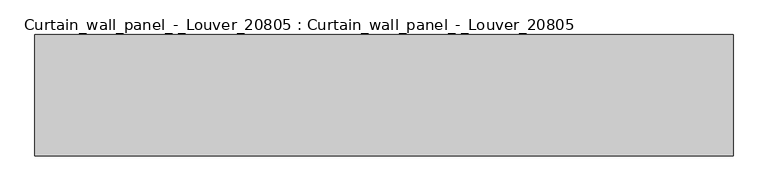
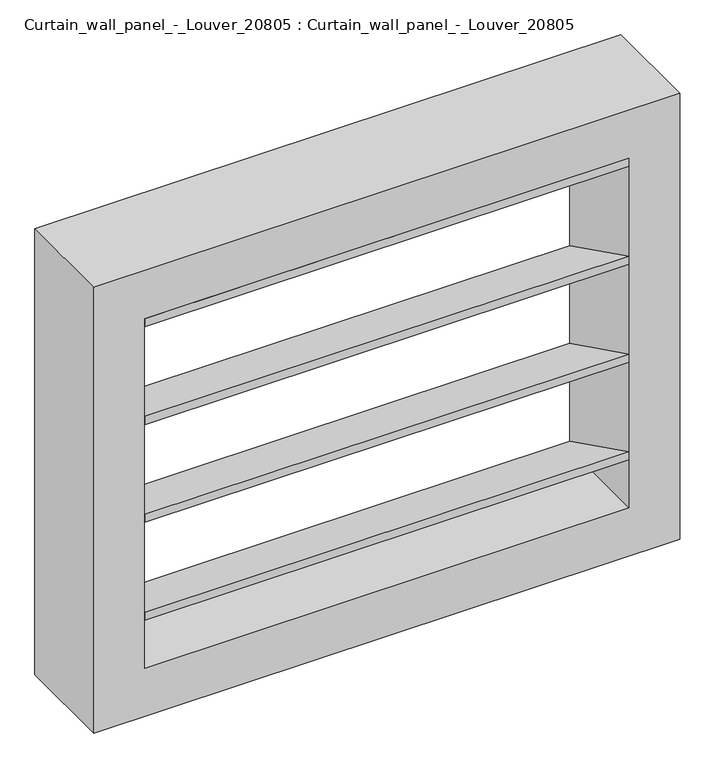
"""IFC4 building model written with IfcOpenShell, lengths in millimetres: plate geometry, Curtain_wall_panel_-_Louver_20805 : Curtain_wall_panel_-_Louver_20805."""

import ifcopenshell
import ifcopenshell.guid

model = None  # the IFC model being written
_history = None  # IfcOwnerHistory: only IFC2X3 demands one
_inside = {}  # id of a spatial element -> (the spatial element, [elements in it])
_under = {}  # id of a project, library or spatial element -> (it, [spatial elements below it])
_declared = {}  # id of a project -> (the project, [libraries it declares])
_typed = {}  # id of a type object -> (the type object, [elements of that type])
_made_of = {}  # id of a material, layer set ... -> (it, [elements and type objects made of it])


def new_model(schema):
    """Start an empty IFC model of exactly this schema.

    Asked for "IFC4X3", IfcOpenShell would pick the latest addendum, in which some entities
    have other attributes; the version numbers below select the first issue.
    IFC2X3 requires an IfcOwnerHistory on every rooted entity: one is made here for all.
    """
    global model, _history
    if schema == "IFC4X3":
        model = ifcopenshell.file(schema_version=(4, 3, 0, 0))
    else:
        model = ifcopenshell.file(schema=schema)
    _inside.clear()
    _under.clear()
    _declared.clear()
    _typed.clear()
    _made_of.clear()
    _history = None
    if model.schema == "IFC2X3":
        org = make("IfcOrganization", Name="unknown")
        user = make(
            "IfcPersonAndOrganization",
            ThePerson=make("IfcPerson", FamilyName="unknown"),
            TheOrganization=org,
        )
        app = make(
            "IfcApplication",
            ApplicationDeveloper=org,
            Version="unknown",
            ApplicationFullName="unknown",
            ApplicationIdentifier="unknown",
        )
        _history = make(
            "IfcOwnerHistory",
            OwningUser=user,
            OwningApplication=app,
            ChangeAction="ADDED",
            CreationDate=0,
        )
    return model


def make(cls, **values):
    """One entity of the class cls with the attributes given. An attribute that is None is left unset."""
    return model.create_entity(
        cls, **{name: value for name, value in values.items() if value is not None}
    )


def rooted(cls, **values):
    """An entity with a GlobalId (a new one), such as an element, a storey or a relation."""
    return make(cls, GlobalId=ifcopenshell.guid.new(), OwnerHistory=_history, **values)


def si_unit(unit_type, name, prefix=None):
    """IfcSIUnit, for example si_unit("LENGTHUNIT", "METRE", prefix="MILLI")."""
    return make("IfcSIUnit", UnitType=unit_type, Prefix=prefix, Name=name)


def assignment(units):
    """IfcUnitAssignment: the units of a project."""
    return None if units is None else make("IfcUnitAssignment", Units=units)


def point(xyz):
    """IfcCartesianPoint."""
    return None if xyz is None else make("IfcCartesianPoint", Coordinates=xyz)


def direction(xyz):
    """IfcDirection."""
    return None if xyz is None else make("IfcDirection", DirectionRatios=xyz)


def frame(location, z_axis=None, x_axis=None):
    """IfcAxis2Placement3D, a coordinate frame: its origin and axes. An axis left out is left unset."""
    return make(
        "IfcAxis2Placement3D",
        Location=point(location),
        Axis=direction(z_axis),
        RefDirection=direction(x_axis),
    )


def origin():
    """The frame at (0, 0, 0) with its axes left unset."""
    return frame((0.0, 0.0, 0.0))


def place(relative_to, where):
    """IfcLocalPlacement: puts the frame where relative to a parent placement (None: the world)."""
    return make(
        "IfcLocalPlacement", PlacementRelTo=relative_to, RelativePlacement=where
    )


def context(
    kind, dimensions, precision=None, world=None, true_north=None, identifier=None
):
    """IfcGeometricRepresentationContext, for example the 3D "Model" context."""
    return make(
        "IfcGeometricRepresentationContext",
        ContextIdentifier=identifier,
        ContextType=kind,
        CoordinateSpaceDimension=dimensions,
        Precision=precision,
        WorldCoordinateSystem=world,
        TrueNorth=true_north,
    )


def project(units=None, contexts=None):
    """IfcProject with its units and contexts."""
    return rooted(
        "IfcProject",
        Name="project",
        RepresentationContexts=contexts,
        UnitsInContext=assignment(units),
    )


def spatial(cls, under=None, at=None, **own):
    """A site, building, storey or space (cls), placed at a placement, below another one or the project."""
    s = rooted(cls, ObjectPlacement=at, **own)
    if under is not None:
        _under.setdefault(under.id(), (under, []))[1].append(s)
    return s


def polyline(points):
    """IfcPolyline through the points."""
    return make("IfcPolyline", Points=[point(p) for p in points])


def outline(outer, holes=None, kind="AREA"):
    """IfcArbitraryClosedProfileDef: a profile drawn as a closed curve; with holes, ...WithVoids."""
    if holes is None:
        return make("IfcArbitraryClosedProfileDef", ProfileType=kind, OuterCurve=outer)
    return make(
        "IfcArbitraryProfileDefWithVoids",
        ProfileType=kind,
        OuterCurve=outer,
        InnerCurves=holes,
    )


def extrude(swept, where, along, depth):
    """IfcExtrudedAreaSolid: the profile swept, set in the frame where, extruded along a direction by depth."""
    return make(
        "IfcExtrudedAreaSolid",
        SweptArea=swept,
        Position=where,
        ExtrudedDirection=direction(along),
        Depth=depth,
    )


def shape(context_of_items, identifier, shape_type, items):
    """IfcShapeRepresentation: the items that make up one representation, for example the "Body"."""
    return make(
        "IfcShapeRepresentation",
        ContextOfItems=context_of_items,
        RepresentationIdentifier=identifier,
        RepresentationType=shape_type,
        Items=items,
    )


def source(mapping_origin, context_of_items, identifier, shape_type, items):
    """IfcRepresentationMap: a shape defined once, which mapped items show again and again."""
    return make(
        "IfcRepresentationMap",
        MappingOrigin=mapping_origin,
        MappedRepresentation=shape(context_of_items, identifier, shape_type, items),
    )


def transform(
    local_origin,
    x_axis=None,
    y_axis=None,
    z_axis=None,
    scale=None,
    scale2=None,
    scale3=None,
    uniform=True,
):
    """IfcCartesianTransformationOperator3D, or its non-uniform kind. x_axis, y_axis, z_axis: its Axis1, 2, 3."""
    if uniform:
        return make(
            "IfcCartesianTransformationOperator3D",
            Axis1=direction(x_axis),
            Axis2=direction(y_axis),
            LocalOrigin=point(local_origin),
            Scale=scale,
            Axis3=direction(z_axis),
        )
    return make(
        "IfcCartesianTransformationOperator3DnonUniform",
        Axis1=direction(x_axis),
        Axis2=direction(y_axis),
        LocalOrigin=point(local_origin),
        Scale=scale,
        Axis3=direction(z_axis),
        Scale2=scale2,
        Scale3=scale3,
    )


def mapped(mapping_source, mapping_target):
    """IfcMappedItem: shows the shape of a source again, moved by a transform."""
    return make(
        "IfcMappedItem", MappingSource=mapping_source, MappingTarget=mapping_target
    )


def made_of(thing, what):
    """Note that an element or type object is made of a material, layer set ...; save() writes the relation."""
    if what is not None:
        _made_of.setdefault(what.id(), (what, []))[1].append(thing)
    return thing


def element(
    cls,
    number,
    at=None,
    inside=None,
    cuts=None,
    type_object=None,
    material=None,
    context=None,
    identifier="Body",
    shape_type=None,
    held_by="IfcProductDefinitionShape",
    body=None,
    shapes=None,
    **own,
):
    """One element of the class cls, such as IfcWall. Its Tag is "e" and its number.

    at: its placement. inside: the storey or other place that contains it. cuts: it is an
    opening in that element (IfcRelVoidsElement). A single representation is given by context,
    identifier, shape_type and body (its items); several are given by shapes. held_by: the class
    of the entity that holds the representations. save() writes the other relations.
    """
    e = rooted(cls, Tag="e%d" % number, ObjectPlacement=at, **own)
    if body is not None:
        shapes = [shape(context, identifier, shape_type, body)]
    if shapes is not None:
        e.Representation = make(held_by, Representations=shapes)
    if inside is not None:
        _inside.setdefault(inside.id(), (inside, []))[1].append(e)
    if cuts is not None:
        rooted(
            "IfcRelVoidsElement", RelatingBuildingElement=cuts, RelatedOpeningElement=e
        )
    if type_object is not None:
        _typed.setdefault(type_object.id(), (type_object, []))[1].append(e)
    return made_of(e, material)


def aggregate(whole, parts):
    """IfcRelAggregates: a whole, such as a stair, and the parts it consists of."""
    return rooted("IfcRelAggregates", RelatingObject=whole, RelatedObjects=parts)


def save(model, path):
    """Write the relations noted so far, then the file.

    IfcRelAggregates (storeys below a building ...), IfcRelContainedInSpatialStructure (elements
    in a storey), IfcRelDefinesByType, IfcRelAssociatesMaterial and IfcRelDeclares: one each for
    every whole, place, type object, material and project.
    """
    for whole, parts in _under.values():
        aggregate(whole, parts)
    for where, things in _inside.values():
        rooted(
            "IfcRelContainedInSpatialStructure",
            RelatedElements=things,
            RelatingStructure=where,
        )
    for kind, things in _typed.values():
        rooted("IfcRelDefinesByType", RelatedObjects=things, RelatingType=kind)
    for what, things in _made_of.values():
        rooted("IfcRelAssociatesMaterial", RelatedObjects=things, RelatingMaterial=what)
    for by, libraries in _declared.values():
        rooted("IfcRelDeclares", RelatingContext=by, RelatedDefinitions=libraries)
    model.write(path)


def curtain_wall_panel_louver_20805_curtain_wall_panel_louver_a50875e5(model_context):
    return source(origin(), model_context, "Body", "SweptSolid", [
        extrude(outline(polyline([(-200.0, 605.2950441), (-200.0, 622.044977), (0.0, 522.6599789), (0.0, 505.910046), (-200.0, 605.2950441)])), frame((-475.0000001, 0.0, 0.0), z_axis=(1.0, 0.0, 0.0), x_axis=(0.0, 1.0, 0.0)), (0.0, 0.0, 1.0), 950.0000001),
        extrude(outline(polyline([(-200.0, 402.3400211), (-200.0, 419.089954), (0.0, 319.7049559), (0.0, 302.955023), (-200.0, 402.3400211)])), frame((-475.0000001, 0.0, 0.0), z_axis=(1.0, 0.0, 0.0), x_axis=(0.0, 1.0, 0.0)), (0.0, 0.0, 1.0), 950.0000001),
        extrude(outline(polyline([(-200.0, 808.2500672), (-200.0, 825.0), (0.0, 725.6150019), (0.0, 708.8650691), (-200.0, 808.2500672)])), frame((-475.0000001, 0.0, 0.0), z_axis=(1.0, 0.0, 0.0), x_axis=(0.0, 1.0, 0.0)), (0.0, 0.0, 1.0), 950.0000001),
        extrude(outline(polyline([(-200.0, 199.3849981), (-200.0, 216.1349309), (0.0, 116.7499328), (0.0, 100.0), (-200.0, 199.3849981)])), frame((-475.0000001, 0.0, 0.0), z_axis=(1.0, 0.0, 0.0), x_axis=(0.0, 1.0, 0.0)), (0.0, 0.0, 1.0), 950.0000001),
        extrude(outline(polyline([(925.0, -575.0000001), (0.0, -575.0000001), (0.0, 575.0000001), (925.0, 575.0000001), (925.0, -575.0000001)]), holes=[polyline([(825.0, -475.0000001), (825.0, 475.0000001), (100.0, 475.0000001), (100.0, -475.0000001), (825.0, -475.0000001)])]), frame((0.0, -200.0, 0.0), z_axis=(0.0, 1.0, 0.0), x_axis=(0.0, 0.0, 1.0)), (0.0, 0.0, 1.0), 200.0),
    ])


if __name__ == "__main__":
    model = new_model("IFC4")
    model_context = context("Model", 3, world=origin())
    ifc_project = project(units=[si_unit("LENGTHUNIT", "METRE", prefix="MILLI")], contexts=[model_context])
    site = spatial("IfcSite", under=ifc_project)
    building = spatial("IfcBuilding", under=site)
    placement = place(None, origin())
    curtain_wall_panel_louver_20805_curtain_wall_panel_louver_shape = curtain_wall_panel_louver_20805_curtain_wall_panel_louver_a50875e5(model_context)
    element("IfcPlate", 1, ObjectType="Curtain_wall_panel_-_Louver_20805 : Curtain_wall_panel_-_Louver_20805", at=placement, inside=building, context=model_context, shape_type="MappedRepresentation", body=[
        mapped(curtain_wall_panel_louver_20805_curtain_wall_panel_louver_shape, transform((0.0, 0.0, 0.0), x_axis=(1.0, 0.0, 0.0), y_axis=(0.0, 1.0, 0.0), z_axis=(0.0, 0.0, 1.0))),
    ])
    save(model, "model.ifc")
